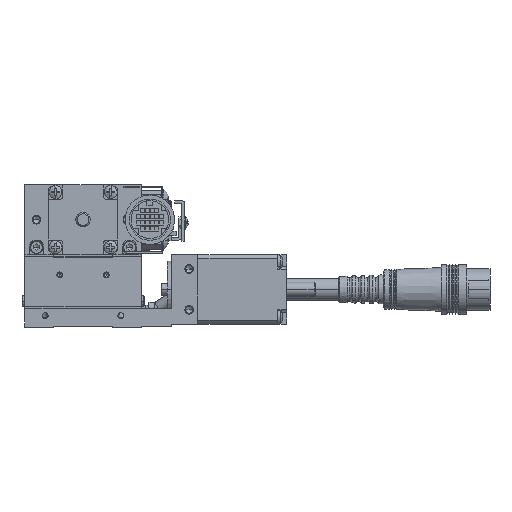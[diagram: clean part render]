
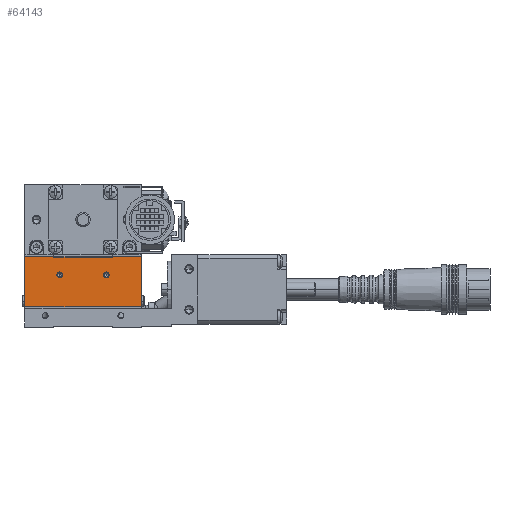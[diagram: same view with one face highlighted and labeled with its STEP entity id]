
A CAD part, front view. The second image highlights one B-rep face of the part: STEP entity #64143.
In plain terms, the highlighted planar face has unit normal (0, -1, 0) as drawn and (-1, 0, 0) by its records, which use the part's own axes.
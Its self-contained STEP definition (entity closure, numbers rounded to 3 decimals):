
#284 = DIRECTION ( 'NONE',  ( 0., 0.447, 0.894 ) ) ;
#1753 = ORIENTED_EDGE ( 'NONE', *, *, #99334, .F. ) ;
#1765 = VERTEX_POINT ( 'NONE', #57715 ) ;
#2248 = LINE ( 'NONE', #73656, #48616 ) ;
#3851 = DIRECTION ( 'NONE',  ( 0., -0.447, 0.894 ) ) ;
#5363 = CARTESIAN_POINT ( 'NONE',  ( -20., -8., -6. ) ) ;
#5516 = LINE ( 'NONE', #78790, #45560 ) ;
#6640 = DIRECTION ( 'NONE',  ( 0., 0., 1. ) ) ;
#7920 = FACE_OUTER_BOUND ( 'NONE', #102353, .T. ) ;
#8830 = CARTESIAN_POINT ( 'NONE',  ( -20., 10., -0.001 ) ) ;
#10296 = VECTOR ( 'NONE', #19094, 1000. ) ;
#11147 = ORIENTED_EDGE ( 'NONE', *, *, #89206, .F. ) ;
#11935 = EDGE_CURVE ( 'NONE', #75228, #1765, #54063, .T. ) ;
#13083 = VERTEX_POINT ( 'NONE', #42264 ) ;
#13437 = DIRECTION ( 'NONE',  ( 0., 0.447, 0.894 ) ) ;
#13773 = EDGE_CURVE ( 'NONE', #74591, #1765, #2248, .T. ) ;
#15070 = DIRECTION ( 'NONE',  ( 0., -1., 0. ) ) ;
#16920 = CARTESIAN_POINT ( 'NONE',  ( -20., 10., 0. ) ) ;
#17641 = CARTESIAN_POINT ( 'NONE',  ( -20., 10., 0.3 ) ) ;
#18348 = DIRECTION ( 'NONE',  ( -1., 0., 0. ) ) ;
#19094 = DIRECTION ( 'NONE',  ( 0., 0., -1. ) ) ;
#19265 = LINE ( 'NONE', #36279, #95604 ) ;
#19351 = ORIENTED_EDGE ( 'NONE', *, *, #73739, .F. ) ;
#21233 = EDGE_LOOP ( 'NONE', ( #1753, #94095 ) ) ;
#21623 = VERTEX_POINT ( 'NONE', #35719 ) ;
#22107 = CARTESIAN_POINT ( 'NONE',  ( -20., 7.553, -5.106 ) ) ;
#22399 = CARTESIAN_POINT ( 'NONE',  ( -20., 0., 0.3 ) ) ;
#24052 = EDGE_CURVE ( 'NONE', #45591, #29187, #38023, .T. ) ;
#24754 = AXIS2_PLACEMENT_3D ( 'NONE', #27974, #36008, #3851 ) ;
#27244 = CARTESIAN_POINT ( 'NONE',  ( -20., 20., -17. ) ) ;
#27974 = CARTESIAN_POINT ( 'NONE',  ( -20., 8., -6. ) ) ;
#28263 = VERTEX_POINT ( 'NONE', #66379 ) ;
#29187 = VERTEX_POINT ( 'NONE', #33914 ) ;
#29470 = LINE ( 'NONE', #8830, #54510 ) ;
#29975 = ORIENTED_EDGE ( 'NONE', *, *, #13773, .T. ) ;
#30466 = FACE_BOUND ( 'NONE', #21233, .T. ) ;
#31620 = LINE ( 'NONE', #36464, #57978 ) ;
#33355 = CARTESIAN_POINT ( 'NONE',  ( -20., -20., 0.3 ) ) ;
#33914 = CARTESIAN_POINT ( 'NONE',  ( -20., -10., 0. ) ) ;
#34183 = CIRCLE ( 'NONE', #38057, 1. ) ;
#35505 = EDGE_CURVE ( 'NONE', #51410, #45591, #29470, .T. ) ;
#35719 = CARTESIAN_POINT ( 'NONE',  ( -20., -8.447, -6.894 ) ) ;
#36008 = DIRECTION ( 'NONE',  ( -1., 0., 0. ) ) ;
#36279 = CARTESIAN_POINT ( 'NONE',  ( -20., 20., 0.3 ) ) ;
#36464 = CARTESIAN_POINT ( 'NONE',  ( -20., 0., 0.3 ) ) ;
#37150 = ORIENTED_EDGE ( 'NONE', *, *, #47968, .F. ) ;
#38023 = LINE ( 'NONE', #56336, #46732 ) ;
#38057 = AXIS2_PLACEMENT_3D ( 'NONE', #5363, #61340, #13437 ) ;
#40448 = CIRCLE ( 'NONE', #85964, 1. ) ;
#40543 = CARTESIAN_POINT ( 'NONE',  ( -20., -8., -6. ) ) ;
#42134 = DIRECTION ( 'NONE',  ( 0., -1., 0. ) ) ;
#42264 = CARTESIAN_POINT ( 'NONE',  ( -20., -7.553, -5.106 ) ) ;
#44258 = FACE_BOUND ( 'NONE', #49850, .T. ) ;
#44538 = ORIENTED_EDGE ( 'NONE', *, *, #11935, .F. ) ;
#44869 = ORIENTED_EDGE ( 'NONE', *, *, #24052, .F. ) ;
#45560 = VECTOR ( 'NONE', #86787, 1000. ) ;
#45591 = VERTEX_POINT ( 'NONE', #16920 ) ;
#45964 = CARTESIAN_POINT ( 'NONE',  ( -20., -10., 0.3 ) ) ;
#46732 = VECTOR ( 'NONE', #15070, 1000. ) ;
#46767 = CIRCLE ( 'NONE', #78831, 1. ) ;
#47968 = EDGE_CURVE ( 'NONE', #13083, #21623, #40448, .T. ) ;
#48616 = VECTOR ( 'NONE', #42134, 1000. ) ;
#49803 = CARTESIAN_POINT ( 'NONE',  ( -20., 8., -6. ) ) ;
#49850 = EDGE_LOOP ( 'NONE', ( #37150, #19351 ) ) ;
#50201 = CARTESIAN_POINT ( 'NONE',  ( -20., -10., -0.001 ) ) ;
#51101 = ORIENTED_EDGE ( 'NONE', *, *, #35505, .F. ) ;
#51410 = VERTEX_POINT ( 'NONE', #17641 ) ;
#53166 = CARTESIAN_POINT ( 'NONE',  ( -20., 20., 0.3 ) ) ;
#53345 = VERTEX_POINT ( 'NONE', #22107 ) ;
#54063 = LINE ( 'NONE', #33355, #10296 ) ;
#54510 = VECTOR ( 'NONE', #62360, 1000. ) ;
#56336 = CARTESIAN_POINT ( 'NONE',  ( -20., 20., 0. ) ) ;
#57098 = VECTOR ( 'NONE', #58607, 1000. ) ;
#57330 = EDGE_CURVE ( 'NONE', #29187, #58852, #77147, .T. ) ;
#57715 = CARTESIAN_POINT ( 'NONE',  ( -20., -20., -17. ) ) ;
#57978 = VECTOR ( 'NONE', #60266, 1000. ) ;
#58607 = DIRECTION ( 'NONE',  ( 0., 0., 1. ) ) ;
#58852 = VERTEX_POINT ( 'NONE', #45964 ) ;
#60266 = DIRECTION ( 'NONE',  ( 0., -1., 0. ) ) ;
#61340 = DIRECTION ( 'NONE',  ( -1., 0., 0. ) ) ;
#62360 = DIRECTION ( 'NONE',  ( 0., 0., -1. ) ) ;
#63670 = DIRECTION ( 'NONE',  ( -1., 0., 0. ) ) ;
#64143 = ADVANCED_FACE ( 'NONE', ( #7920, #44258, #30466 ), #70365, .F. ) ;
#66119 = AXIS2_PLACEMENT_3D ( 'NONE', #22399, #78372, #6640 ) ;
#66379 = CARTESIAN_POINT ( 'NONE',  ( -20., 8.447, -6.894 ) ) ;
#70365 = PLANE ( 'NONE',  #66119 ) ;
#73140 = EDGE_CURVE ( 'NONE', #89533, #74591, #19265, .T. ) ;
#73656 = CARTESIAN_POINT ( 'NONE',  ( -20., 20., -17. ) ) ;
#73739 = EDGE_CURVE ( 'NONE', #21623, #13083, #34183, .T. ) ;
#74328 = DIRECTION ( 'NONE',  ( 0., -0.447, 0.894 ) ) ;
#74591 = VERTEX_POINT ( 'NONE', #27244 ) ;
#75228 = VERTEX_POINT ( 'NONE', #97395 ) ;
#77147 = LINE ( 'NONE', #50201, #57098 ) ;
#78372 = DIRECTION ( 'NONE',  ( 1., 0., 0. ) ) ;
#78790 = CARTESIAN_POINT ( 'NONE',  ( -20., 0., 0.3 ) ) ;
#78831 = AXIS2_PLACEMENT_3D ( 'NONE', #49803, #18348, #74328 ) ;
#79358 = ORIENTED_EDGE ( 'NONE', *, *, #57330, .F. ) ;
#85119 = EDGE_CURVE ( 'NONE', #28263, #53345, #95145, .T. ) ;
#85964 = AXIS2_PLACEMENT_3D ( 'NONE', #40543, #63670, #284 ) ;
#86787 = DIRECTION ( 'NONE',  ( 0., -1., 0. ) ) ;
#89206 = EDGE_CURVE ( 'NONE', #58852, #75228, #5516, .T. ) ;
#89533 = VERTEX_POINT ( 'NONE', #53166 ) ;
#94095 = ORIENTED_EDGE ( 'NONE', *, *, #85119, .F. ) ;
#94596 = ORIENTED_EDGE ( 'NONE', *, *, #73140, .T. ) ;
#94852 = ORIENTED_EDGE ( 'NONE', *, *, #99637, .F. ) ;
#95145 = CIRCLE ( 'NONE', #24754, 1. ) ;
#95604 = VECTOR ( 'NONE', #100292, 1000. ) ;
#97395 = CARTESIAN_POINT ( 'NONE',  ( -20., -20., 0.3 ) ) ;
#99334 = EDGE_CURVE ( 'NONE', #53345, #28263, #46767, .T. ) ;
#99637 = EDGE_CURVE ( 'NONE', #89533, #51410, #31620, .T. ) ;
#100292 = DIRECTION ( 'NONE',  ( 0., 0., -1. ) ) ;
#102353 = EDGE_LOOP ( 'NONE', ( #79358, #44869, #51101, #94852, #94596, #29975, #44538, #11147 ) ) ;
